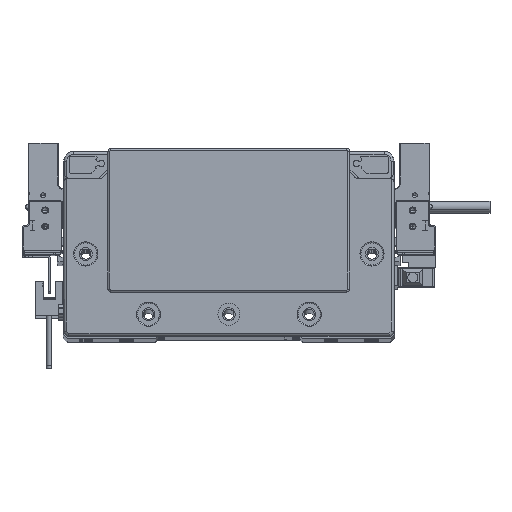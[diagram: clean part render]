
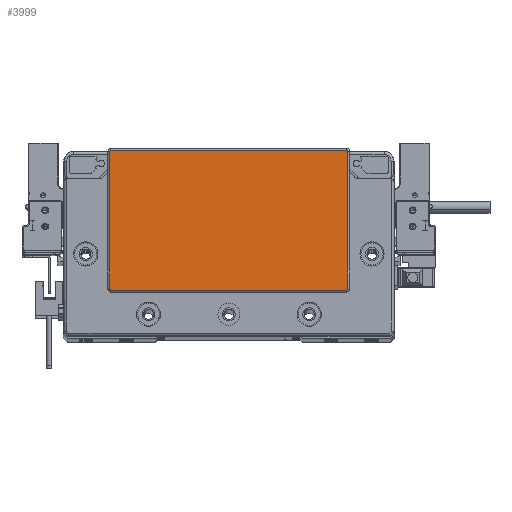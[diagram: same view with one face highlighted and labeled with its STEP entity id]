
A CAD part, top view. The second image highlights one B-rep face of the part: STEP entity #3999.
In plain terms, the highlighted planar face has unit normal (0, 0, 1) as drawn and (0, 0, -1) by its records, which use the part's own axes.
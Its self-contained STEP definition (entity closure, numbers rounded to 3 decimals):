
#420 = CARTESIAN_POINT ( 'NONE',  ( -58.75, -23.8, -2. ) ) ;
#3999 = ADVANCED_FACE ( 'NONE', ( #56156 ), #81370, .T. ) ;
#4439 = LINE ( 'NONE', #71251, #90089 ) ;
#10098 = DIRECTION ( 'NONE',  ( 0., 0., -1. ) ) ;
#10321 = EDGE_CURVE ( 'NONE', #83422, #95894, #49147, .T. ) ;
#14535 = CARTESIAN_POINT ( 'NONE',  ( 0., 0., -2. ) ) ;
#14784 = AXIS2_PLACEMENT_3D ( 'NONE', #14535, #80276, #32062 ) ;
#15448 = EDGE_CURVE ( 'NONE', #25067, #83422, #34795, .T. ) ;
#17270 = CARTESIAN_POINT ( 'NONE',  ( 58.75, 45.8, -2. ) ) ;
#17289 = EDGE_CURVE ( 'NONE', #31255, #45330, #41988, .T. ) ;
#18338 = DIRECTION ( 'NONE',  ( 1., 0., 0. ) ) ;
#25067 = VERTEX_POINT ( 'NONE', #36403 ) ;
#26029 = CARTESIAN_POINT ( 'NONE',  ( -58.75, 45.3, -2. ) ) ;
#28864 = CARTESIAN_POINT ( 'NONE',  ( 59.25, 45.3, -2. ) ) ;
#29024 = CARTESIAN_POINT ( 'NONE',  ( 58.75, 45.3, -2. ) ) ;
#31255 = VERTEX_POINT ( 'NONE', #60876 ) ;
#32062 = DIRECTION ( 'NONE',  ( -1., 0., 0. ) ) ;
#32658 = CARTESIAN_POINT ( 'NONE',  ( 58.75, 45.8, -2. ) ) ;
#33407 = ORIENTED_EDGE ( 'NONE', *, *, #10321, .T. ) ;
#34669 = ORIENTED_EDGE ( 'NONE', *, *, #92980, .T. ) ;
#34795 = LINE ( 'NONE', #17270, #100448 ) ;
#34900 = EDGE_LOOP ( 'NONE', ( #56458, #48038, #48555, #92536, #34669, #85525, #51717, #33407 ) ) ;
#36387 = DIRECTION ( 'NONE',  ( -1., 0., 0. ) ) ;
#36403 = CARTESIAN_POINT ( 'NONE',  ( -58.75, 45.8, -2. ) ) ;
#38305 = CIRCLE ( 'NONE', #59247, 0.5 ) ;
#40652 = EDGE_CURVE ( 'NONE', #45330, #74868, #4439, .T. ) ;
#41988 = CIRCLE ( 'NONE', #103209, 0.5 ) ;
#45330 = VERTEX_POINT ( 'NONE', #100156 ) ;
#48038 = ORIENTED_EDGE ( 'NONE', *, *, #17289, .T. ) ;
#48244 = LINE ( 'NONE', #58067, #95433 ) ;
#48555 = ORIENTED_EDGE ( 'NONE', *, *, #40652, .T. ) ;
#49147 = CIRCLE ( 'NONE', #82392, 0.5 ) ;
#49308 = DIRECTION ( 'NONE',  ( 0., 1., 0. ) ) ;
#51717 = ORIENTED_EDGE ( 'NONE', *, *, #15448, .T. ) ;
#56156 = FACE_OUTER_BOUND ( 'NONE', #34900, .T. ) ;
#56378 = DIRECTION ( 'NONE',  ( 0., 0., -1. ) ) ;
#56458 = ORIENTED_EDGE ( 'NONE', *, *, #104207, .T. ) ;
#58067 = CARTESIAN_POINT ( 'NONE',  ( -59.25, 45.3, -2. ) ) ;
#59247 = AXIS2_PLACEMENT_3D ( 'NONE', #86780, #10098, #36387 ) ;
#60014 = AXIS2_PLACEMENT_3D ( 'NONE', #26029, #86244, #85160 ) ;
#60876 = CARTESIAN_POINT ( 'NONE',  ( 59.25, -23.3, -2. ) ) ;
#61319 = DIRECTION ( 'NONE',  ( 0., 0., -1. ) ) ;
#62506 = DIRECTION ( 'NONE',  ( -1., 0., 0. ) ) ;
#65261 = CARTESIAN_POINT ( 'NONE',  ( -59.25, 45.3, -2. ) ) ;
#66997 = CARTESIAN_POINT ( 'NONE',  ( -59.25, -23.3, -2. ) ) ;
#71251 = CARTESIAN_POINT ( 'NONE',  ( -58.75, -23.8, -2. ) ) ;
#72256 = CARTESIAN_POINT ( 'NONE',  ( 58.75, -23.3, -2. ) ) ;
#74868 = VERTEX_POINT ( 'NONE', #420 ) ;
#75636 = VERTEX_POINT ( 'NONE', #66997 ) ;
#80276 = DIRECTION ( 'NONE',  ( 0., 0., -1. ) ) ;
#80481 = DIRECTION ( 'NONE',  ( -1., 0., 0. ) ) ;
#81370 = PLANE ( 'NONE',  #14784 ) ;
#81823 = EDGE_CURVE ( 'NONE', #74868, #75636, #38305, .T. ) ;
#82392 = AXIS2_PLACEMENT_3D ( 'NONE', #29024, #61319, #94754 ) ;
#83422 = VERTEX_POINT ( 'NONE', #32658 ) ;
#85160 = DIRECTION ( 'NONE',  ( -1., 0., 0. ) ) ;
#85525 = ORIENTED_EDGE ( 'NONE', *, *, #89734, .T. ) ;
#86244 = DIRECTION ( 'NONE',  ( 0., 0., -1. ) ) ;
#86780 = CARTESIAN_POINT ( 'NONE',  ( -58.75, -23.3, -2. ) ) ;
#89734 = EDGE_CURVE ( 'NONE', #101422, #25067, #103747, .T. ) ;
#90089 = VECTOR ( 'NONE', #62506, 1000. ) ;
#90520 = CARTESIAN_POINT ( 'NONE',  ( 59.25, -23.3, -2. ) ) ;
#92536 = ORIENTED_EDGE ( 'NONE', *, *, #81823, .T. ) ;
#92980 = EDGE_CURVE ( 'NONE', #75636, #101422, #48244, .T. ) ;
#94754 = DIRECTION ( 'NONE',  ( -1., 0., 0. ) ) ;
#95433 = VECTOR ( 'NONE', #49308, 1000. ) ;
#95894 = VERTEX_POINT ( 'NONE', #28864 ) ;
#98718 = LINE ( 'NONE', #90520, #106934 ) ;
#100156 = CARTESIAN_POINT ( 'NONE',  ( 58.75, -23.8, -2. ) ) ;
#100448 = VECTOR ( 'NONE', #18338, 1000. ) ;
#101422 = VERTEX_POINT ( 'NONE', #65261 ) ;
#103209 = AXIS2_PLACEMENT_3D ( 'NONE', #72256, #56378, #80481 ) ;
#103747 = CIRCLE ( 'NONE', #60014, 0.5 ) ;
#104207 = EDGE_CURVE ( 'NONE', #95894, #31255, #98718, .T. ) ;
#105894 = DIRECTION ( 'NONE',  ( 0., -1., 0. ) ) ;
#106934 = VECTOR ( 'NONE', #105894, 1000. ) ;
